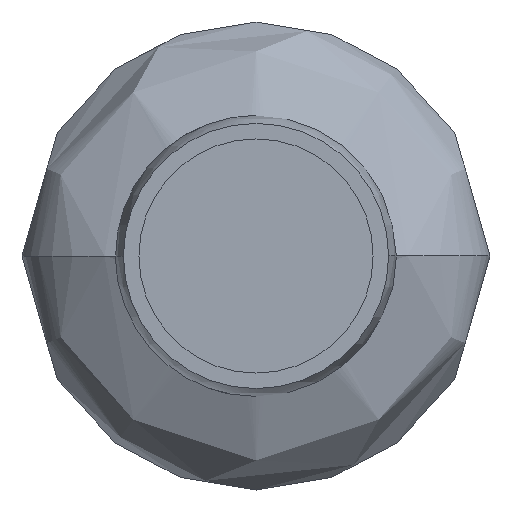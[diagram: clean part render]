
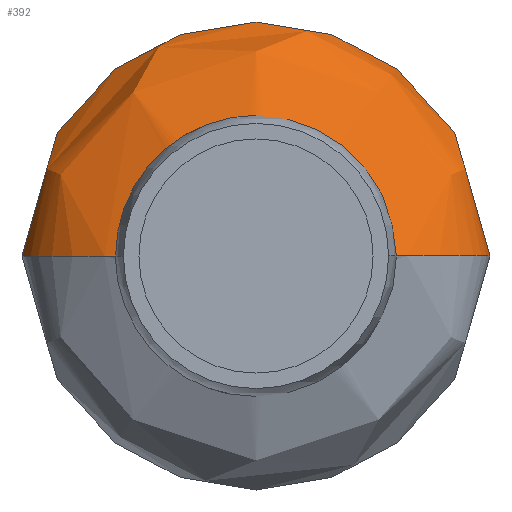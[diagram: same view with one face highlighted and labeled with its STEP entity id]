
A CAD part, left-side view. The second image highlights one B-rep face of the part: STEP entity #392.
In plain terms, the highlighted free-form (B-spline) face has degree [3, 3] with [4, 4] control points.
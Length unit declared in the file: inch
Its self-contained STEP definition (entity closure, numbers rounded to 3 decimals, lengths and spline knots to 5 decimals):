
#3 = CARTESIAN_POINT ( 'NONE',  ( -15.67039, -1.45669, 0. ) ) ;
#78 = CARTESIAN_POINT ( 'NONE',  ( -14.66205, -8.88463, 0. ) ) ;
#79 =( BOUNDED_CURVE ( )  B_SPLINE_CURVE ( 3, ( #277, #78, #576, #1426 ),
 .UNSPECIFIED., .F., .T. ) 
 B_SPLINE_CURVE_WITH_KNOTS ( ( 4, 4 ),
 ( 4.96163, 7.60474 ),
 .UNSPECIFIED. ) 
 CURVE ( )  GEOMETRIC_REPRESENTATION_ITEM ( )  RATIONAL_B_SPLINE_CURVE ( ( 1., 0.498, 0.498, 1. ) ) 
 REPRESENTATION_ITEM ( '' )  );
#145 = CARTESIAN_POINT ( 'NONE',  ( -14.66205, -8.88463, 17.76926 ) ) ;
#156 = CARTESIAN_POINT ( 'NONE',  ( -15.67039, 0., 0. ) ) ;
#236 = AXIS2_PLACEMENT_3D ( 'NONE', #1189, #1494, #355 ) ;
#246 = ORIENTED_EDGE ( 'NONE', *, *, #1511, .F. ) ;
#249 = VERTEX_POINT ( 'NONE', #2109 ) ;
#277 = CARTESIAN_POINT ( 'NONE',  ( -15.67039, -1.45669, 0. ) ) ;
#309 = DIRECTION ( 'NONE',  ( 1., 0., 0. ) ) ;
#322 = CIRCLE ( 'NONE', #1793, 1.45669 ) ;
#353 = DIRECTION ( 'NONE',  ( 0., 0., -1. ) ) ;
#355 = DIRECTION ( 'NONE',  ( 0., 0., -1. ) ) ;
#367 = EDGE_CURVE ( 'NONE', #542, #684, #322, .T. ) ;
#392 = ADVANCED_FACE ( 'NONE', ( #1305 ), #1724, .F. ) ;
#489 = CARTESIAN_POINT ( 'NONE',  ( -10.57417, 8.88463, 0. ) ) ;
#499 = CARTESIAN_POINT ( 'NONE',  ( -9.56583, 0., 0. ) ) ;
#514 = AXIS2_PLACEMENT_3D ( 'NONE', #1979, #1668, #353 ) ;
#528 = EDGE_LOOP ( 'NONE', ( #1803, #1988, #1728, #246, #1233, #1421 ) ) ;
#542 = VERTEX_POINT ( 'NONE', #1692 ) ;
#553 = EDGE_CURVE ( 'NONE', #684, #1493, #1850, .T. ) ;
#571 = CARTESIAN_POINT ( 'NONE',  ( -14.66205, 8.88463, 0. ) ) ;
#576 = CARTESIAN_POINT ( 'NONE',  ( -10.57417, -8.88463, 0. ) ) ;
#668 = CARTESIAN_POINT ( 'NONE',  ( -14.66205, 8.88463, 17.76926 ) ) ;
#672 = EDGE_CURVE ( 'NONE', #542, #249, #2020, .T. ) ;
#681 = CARTESIAN_POINT ( 'NONE',  ( -9.56583, -1.45669, 0. ) ) ;
#684 = VERTEX_POINT ( 'NONE', #1923 ) ;
#853 = CARTESIAN_POINT ( 'NONE',  ( -15.67039, -1.45669, 2.91339 ) ) ;
#905 = AXIS2_PLACEMENT_3D ( 'NONE', #499, #1535, #1191 ) ;
#906 = EDGE_CURVE ( 'NONE', #1289, #1762, #1534, .T. ) ;
#1019 = CARTESIAN_POINT ( 'NONE',  ( -9.56583, 1.45669, 0. ) ) ;
#1029 = CARTESIAN_POINT ( 'NONE',  ( -9.56583, -1.45669, 2.91339 ) ) ;
#1144 = DIRECTION ( 'NONE',  ( 0., 0., -1. ) ) ;
#1189 = CARTESIAN_POINT ( 'NONE',  ( -15.67039, 0., 0. ) ) ;
#1191 = DIRECTION ( 'NONE',  ( 0., 0., -1. ) ) ;
#1192 = CARTESIAN_POINT ( 'NONE',  ( -15.67039, 1.45669, 0. ) ) ;
#1233 = ORIENTED_EDGE ( 'NONE', *, *, #672, .F. ) ;
#1260 = EDGE_CURVE ( 'NONE', #1493, #1762, #79, .T. ) ;
#1289 = VERTEX_POINT ( 'NONE', #1747 ) ;
#1305 = FACE_OUTER_BOUND ( 'NONE', #528, .T. ) ;
#1370 = CARTESIAN_POINT ( 'NONE',  ( -15.67039, -1.45669, 0. ) ) ;
#1421 = ORIENTED_EDGE ( 'NONE', *, *, #367, .T. ) ;
#1426 = CARTESIAN_POINT ( 'NONE',  ( -9.56583, -1.45669, 0. ) ) ;
#1446 = CARTESIAN_POINT ( 'NONE',  ( -9.56583, -1.45669, 0. ) ) ;
#1488 = CARTESIAN_POINT ( 'NONE',  ( -10.57417, -8.88463, 17.76926 ) ) ;
#1493 = VERTEX_POINT ( 'NONE', #1370 ) ;
#1494 = DIRECTION ( 'NONE',  ( 1., 0., 0. ) ) ;
#1511 = EDGE_CURVE ( 'NONE', #249, #1289, #1677, .T. ) ;
#1514 = CARTESIAN_POINT ( 'NONE',  ( -15.67039, 1.45669, 2.91339 ) ) ;
#1524 = CARTESIAN_POINT ( 'NONE',  ( -9.56583, 1.45669, 2.91339 ) ) ;
#1534 = CIRCLE ( 'NONE', #514, 1.45669 ) ;
#1535 = DIRECTION ( 'NONE',  ( 1., 0., 0. ) ) ;
#1559 = CARTESIAN_POINT ( 'NONE',  ( -9.56583, 1.45669, 0. ) ) ;
#1668 = DIRECTION ( 'NONE',  ( 1., 0., 0. ) ) ;
#1677 = CIRCLE ( 'NONE', #905, 1.45669 ) ;
#1692 = CARTESIAN_POINT ( 'NONE',  ( -15.67039, 1.45669, 0. ) ) ;
#1724 =( BOUNDED_SURFACE ( )  B_SPLINE_SURFACE ( 3, 3, ( 
 ( #1192, #1514, #853, #3 ),
 ( #1811, #668, #145, #1847 ),
 ( #489, #1998, #1488, #1858 ),
 ( #1019, #1524, #1029, #681 ) ),
 .UNSPECIFIED., .F., .F., .T. ) 
 B_SPLINE_SURFACE_WITH_KNOTS ( ( 4, 4 ),
 ( 4, 4 ),
 ( 0., 1. ),
 ( 0., 1. ),
 .UNSPECIFIED. ) 
 GEOMETRIC_REPRESENTATION_ITEM ( )  RATIONAL_B_SPLINE_SURFACE ( (
 ( 1., 0.333, 0.333, 1.),
 ( 0.498, 0.166, 0.166, 0.498),
 ( 0.498, 0.166, 0.166, 0.498),
 ( 1., 0.333, 0.333, 1.) ) ) 
 REPRESENTATION_ITEM ( '' )  SURFACE ( )  );
#1728 = ORIENTED_EDGE ( 'NONE', *, *, #906, .F. ) ;
#1747 = CARTESIAN_POINT ( 'NONE',  ( -9.56583, 0., 1.45669 ) ) ;
#1762 = VERTEX_POINT ( 'NONE', #1446 ) ;
#1793 = AXIS2_PLACEMENT_3D ( 'NONE', #156, #309, #1144 ) ;
#1803 = ORIENTED_EDGE ( 'NONE', *, *, #553, .T. ) ;
#1811 = CARTESIAN_POINT ( 'NONE',  ( -14.66205, 8.88463, 0. ) ) ;
#1847 = CARTESIAN_POINT ( 'NONE',  ( -14.66205, -8.88463, 0. ) ) ;
#1850 = CIRCLE ( 'NONE', #236, 1.45669 ) ;
#1858 = CARTESIAN_POINT ( 'NONE',  ( -10.57417, -8.88463, 0. ) ) ;
#1902 = CARTESIAN_POINT ( 'NONE',  ( -10.57417, 8.88463, 0. ) ) ;
#1923 = CARTESIAN_POINT ( 'NONE',  ( -15.67039, 0., 1.45669 ) ) ;
#1979 = CARTESIAN_POINT ( 'NONE',  ( -9.56583, 0., 0. ) ) ;
#1988 = ORIENTED_EDGE ( 'NONE', *, *, #1260, .T. ) ;
#1998 = CARTESIAN_POINT ( 'NONE',  ( -10.57417, 8.88463, 17.76926 ) ) ;
#2020 =( BOUNDED_CURVE ( )  B_SPLINE_CURVE ( 3, ( #2047, #571, #1902, #1559 ),
 .UNSPECIFIED., .F., .T. ) 
 B_SPLINE_CURVE_WITH_KNOTS ( ( 4, 4 ),
 ( 4.96163, 7.60474 ),
 .UNSPECIFIED. ) 
 CURVE ( )  GEOMETRIC_REPRESENTATION_ITEM ( )  RATIONAL_B_SPLINE_CURVE ( ( 1., 0.498, 0.498, 1. ) ) 
 REPRESENTATION_ITEM ( '' )  );
#2047 = CARTESIAN_POINT ( 'NONE',  ( -15.67039, 1.45669, 0. ) ) ;
#2109 = CARTESIAN_POINT ( 'NONE',  ( -9.56583, 1.45669, 0. ) ) ;
